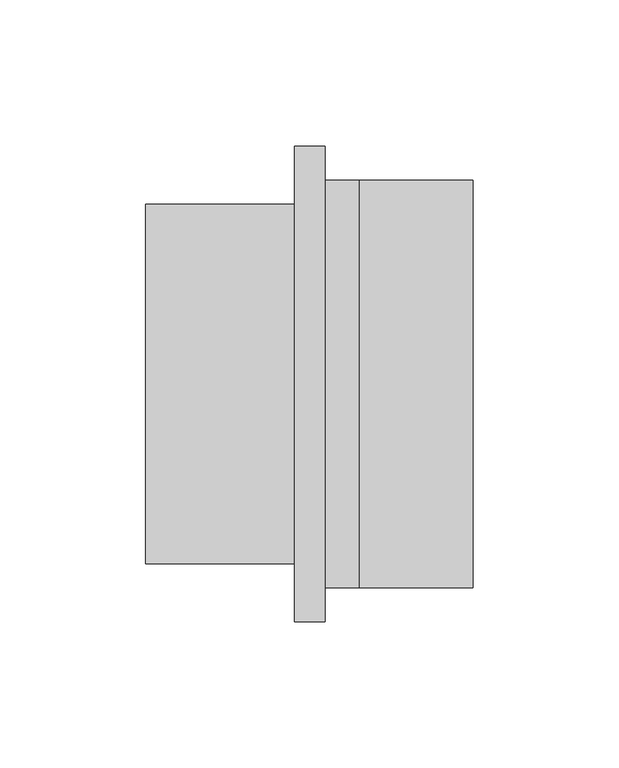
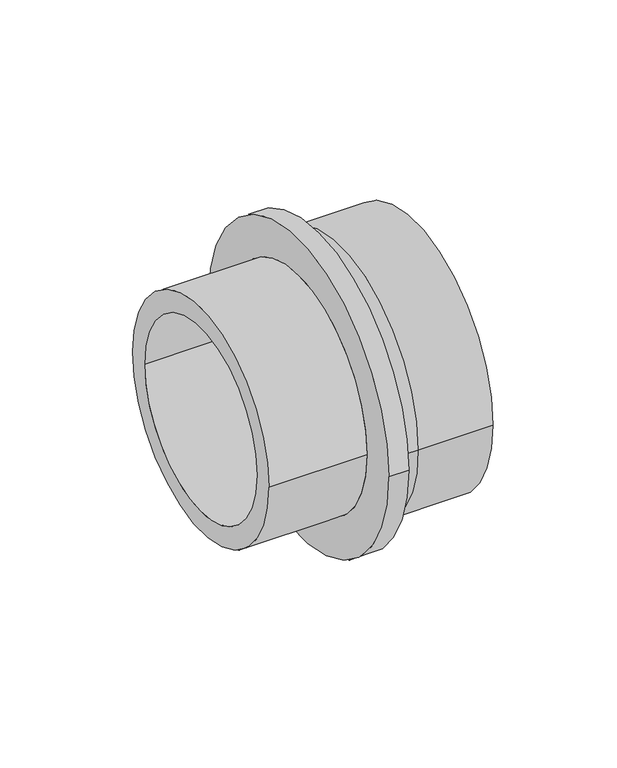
"""IFC4 building model written with IfcOpenShell, lengths in millimetres: pipe fitting geometry, Adapter with welding end : A welding RX."""

from ifc_helpers import new_model, si_unit, point, frame, origin, origin_2d, place, context, project, spatial, polyline, circle_curve, trimmed, segment, composite_curve, outline, extrude, source, transform, mapped, element, save
from ifc_brep_helpers import plane_surface, cylinder_surface, revolved_surface, advanced_brep


def pipe_fitting_80c25c59(model_context):
    return source(origin(), model_context, "Body", "SolidModel", [
        advanced_brep(
        [(0.0, 69.8, 0.0), (0.0, -69.8, 0.0), (-11.6, -69.8, 0.0), (-11.6, 69.8, 0.0), (-11.6, 65.95, 0.0), (-11.6, -65.95, 0.0), (0.0, -65.95, 0.0), (0.0, 65.95, 0.0), (-73.0, 50.5, 0.0), (-73.0, -50.5, 0.0), (-11.6, -50.5, 0.0), (-11.6, 50.5, 0.0), (-22.0, 61.5, 0.0), (-22.0, -61.5, 0.0), (-73.0, -61.5, 0.0), (-73.0, 61.5, 0.0), (-11.6, 81.5, 0.0), (-11.6, -81.5, 0.0), (-22.0, -81.5, 0.0), (-22.0, 81.5, 0.0)],
        [
            (0, 1, circle_curve(frame((0.0, 0.0, 0.0), z_axis=(-1.0, 0.0, 0.0), x_axis=(0.0, -1.0, 0.0)), 69.8)),
            (1, 2),
            (2, 3, circle_curve(frame((-11.6, 0.0, 0.0), z_axis=(1.0, 0.0, 0.0), x_axis=(0.0, -1.0, 0.0)), 69.8)),
            (3, 0),
            (4, 5, circle_curve(frame((-11.6, 0.0, 0.0), z_axis=(-1.0, 0.0, 0.0), x_axis=(0.0, -1.0, 0.0)), 65.95)),
            (5, 6),
            (6, 7, circle_curve(frame((0.0, 0.0, 0.0), z_axis=(1.0, 0.0, 0.0), x_axis=(0.0, -1.0, 0.0)), 65.95)),
            (7, 4),
            (8, 9, circle_curve(frame((-73.0, 0.0, 0.0), z_axis=(-1.0, 0.0, 0.0), x_axis=(0.0, -1.0, 0.0)), 50.5)),
            (9, 10),
            (10, 11, circle_curve(frame((-11.6, 0.0, 0.0), z_axis=(1.0, 0.0, 0.0), x_axis=(0.0, -1.0, 0.0)), 50.5)),
            (11, 8),
            (12, 13, circle_curve(frame((-22.0, 0.0, 0.0), z_axis=(-1.0, 0.0, 0.0), x_axis=(0.0, -1.0, 0.0)), 61.5)),
            (13, 14),
            (14, 15, circle_curve(frame((-73.0, 0.0, 0.0), z_axis=(1.0, 0.0, 0.0), x_axis=(0.0, -1.0, 0.0)), 61.5)),
            (15, 12),
            (16, 17, circle_curve(frame((-11.6, 0.0, 0.0), z_axis=(-1.0, 0.0, 0.0), x_axis=(0.0, -1.0, 0.0)), 81.5)),
            (17, 18),
            (18, 19, circle_curve(frame((-22.0, 0.0, 0.0), z_axis=(1.0, 0.0, 0.0), x_axis=(0.0, -1.0, 0.0)), 81.5)),
            (19, 16),
            (16, 17, circle_curve(frame((-11.6, 0.0, 0.0), z_axis=(1.0, 0.0, 0.0), x_axis=(0.0, 1.0, 0.0)), 81.5)),
            (2, 3, circle_curve(frame((-11.6, 0.0, 0.0), z_axis=(-1.0, 0.0, 0.0), x_axis=(0.0, 1.0, 0.0)), 69.8)),
            (1, 0, circle_curve(frame((0.0, 0.0, 0.0), z_axis=(-1.0, 0.0, 0.0), x_axis=(0.0, 1.0, 0.0)), 69.8)),
            (6, 7, circle_curve(frame((0.0, 0.0, 0.0), z_axis=(-1.0, 0.0, 0.0), x_axis=(0.0, 1.0, 0.0)), 65.95)),
            (5, 4, circle_curve(frame((-11.6, 0.0, 0.0), z_axis=(-1.0, 0.0, 0.0), x_axis=(0.0, 1.0, 0.0)), 65.95)),
            (10, 11, circle_curve(frame((-11.6, 0.0, 0.0), z_axis=(-1.0, 0.0, 0.0), x_axis=(0.0, 1.0, 0.0)), 50.5)),
            (9, 8, circle_curve(frame((-73.0, 0.0, 0.0), z_axis=(-1.0, 0.0, 0.0), x_axis=(0.0, 1.0, 0.0)), 50.5)),
            (14, 15, circle_curve(frame((-73.0, 0.0, 0.0), z_axis=(-1.0, 0.0, 0.0), x_axis=(0.0, 1.0, 0.0)), 61.5)),
            (13, 12, circle_curve(frame((-22.0, 0.0, 0.0), z_axis=(-1.0, 0.0, 0.0), x_axis=(0.0, 1.0, 0.0)), 61.5)),
            (18, 19, circle_curve(frame((-22.0, 0.0, 0.0), z_axis=(-1.0, 0.0, 0.0), x_axis=(0.0, 1.0, 0.0)), 81.5)),
        ],
        [
            cylinder_surface(frame((0.0, 0.0, 0.0), z_axis=(1.0, 0.0, 0.0), x_axis=(0.0, -1.0, 0.0)), 69.8),
            revolved_surface(polyline([(0.0, -65.95, 0.0), (-11.6, -65.95, 0.0)]), (0.0, 0.0, 0.0), (1.0, 0.0, 0.0)),
            revolved_surface(polyline([(-11.6, -50.5, 0.0), (-73.0, -50.5, 0.0)]), (0.0, 0.0, 0.0), (1.0, 0.0, 0.0)),
            cylinder_surface(frame((0.0, 0.0, 0.0), z_axis=(1.0, 0.0, 0.0), x_axis=(0.0, -1.0, 0.0)), 61.5),
            cylinder_surface(frame((0.0, 0.0, 0.0), z_axis=(1.0, 0.0, 0.0), x_axis=(0.0, -1.0, 0.0)), 81.5),
            plane_surface(frame((-11.6, 0.0, 0.0), z_axis=(1.0, 0.0, 0.0), x_axis=(0.0, 1.0, 0.0))),
            cylinder_surface(frame((0.0, 0.0, 0.0), z_axis=(1.0, 0.0, 0.0), x_axis=(0.0, 1.0, 0.0)), 69.8),
            plane_surface(frame((0.0, 0.0, 0.0), z_axis=(1.0, 0.0, 0.0), x_axis=(0.0, 1.0, 0.0))),
            revolved_surface(polyline([(0.0, 65.95, 0.0), (-11.6, 65.95, 0.0)]), (0.0, 0.0, 0.0), (1.0, 0.0, 0.0)),
            revolved_surface(polyline([(-11.6, 50.5, 0.0), (-73.0, 50.5, 0.0)]), (0.0, 0.0, 0.0), (1.0, 0.0, 0.0)),
            plane_surface(frame((-73.0, 0.0, 0.0), z_axis=(-1.0, 0.0, 0.0), x_axis=(0.0, 1.0, 0.0))),
            cylinder_surface(frame((0.0, 0.0, 0.0), z_axis=(1.0, 0.0, 0.0), x_axis=(0.0, 1.0, 0.0)), 61.5),
            plane_surface(frame((-22.0, 0.0, 0.0), z_axis=(-1.0, 0.0, 0.0), x_axis=(0.0, 1.0, 0.0))),
            cylinder_surface(frame((0.0, 0.0, 0.0), z_axis=(1.0, 0.0, 0.0), x_axis=(0.0, 1.0, 0.0)), 81.5),
        ],
        [
            (0, [[1, 2, 3, 4]]),
            (1, [[5, 6, 7, 8]]),
            (2, [[9, 10, 11, 12]]),
            (3, [[13, 14, 15, 16]]),
            (4, [[17, 18, 19, 20]]),
            (5, [[21, -17], [22, -3]]),
            (6, [[23, -4, -22, -2]]),
            (7, [[-23, -1], [24, -7]]),
            (8, [[25, -8, -24, -6]]),
            (5, [[-25, -5], [26, -11]]),
            (9, [[27, -12, -26, -10]]),
            (10, [[28, -15], [-27, -9]]),
            (11, [[29, -16, -28, -14]]),
            (12, [[30, -19], [-29, -13]]),
            (13, [[-21, -20, -30, -18]]),
        ],
    ),
        extrude(outline(composite_curve([segment(trimmed(circle_curve(origin_2d(), 69.8), [point((-69.8, 0.0))], [point((69.8, 0.0))], False, "CARTESIAN"), True, "CONTINUOUS"), segment(trimmed(circle_curve(origin_2d(), 69.8), [point((69.8, 0.0))], [point((-69.8, 0.0))], False, "CARTESIAN"), True, "CONTINUOUS")], self_intersect=False), holes=[composite_curve([segment(trimmed(circle_curve(origin_2d(), 65.95), [point((65.95, 0.0))], [point((-65.95, 0.0))], True, "CARTESIAN"), True, "CONTINUOUS"), segment(trimmed(circle_curve(origin_2d(), 65.95), [point((-65.95, 0.0))], [point((65.95, 0.0))], True, "CARTESIAN"), True, "CONTINUOUS")], self_intersect=False)]), frame((0.0, 0.0, 0.0), z_axis=(1.0, 0.0, 0.0), x_axis=(0.0, 1.0, 0.0)), (0.0, 0.0, 1.0), 39.0),
    ])


if __name__ == "__main__":
    model = new_model("IFC4")
    model_context = context("Model", 3, world=origin())
    ifc_project = project(units=[si_unit("LENGTHUNIT", "METRE", prefix="MILLI")], contexts=[model_context])
    site = spatial("IfcSite", under=ifc_project)
    building = spatial("IfcBuilding", under=site)
    placement = place(None, origin())
    pipe_fitting_shape = pipe_fitting_80c25c59(model_context)
    element("IfcPipeFitting", 1, ObjectType="Adapter with welding end : A welding RX", at=placement, inside=building, context=model_context, shape_type="MappedRepresentation", body=[
        mapped(pipe_fitting_shape, transform((0.0, 0.0, 0.0), x_axis=(1.0, 0.0, 0.0), y_axis=(0.0, 1.0, 0.0), z_axis=(0.0, 0.0, 1.0))),
    ])
    save(model, "model.ifc")
